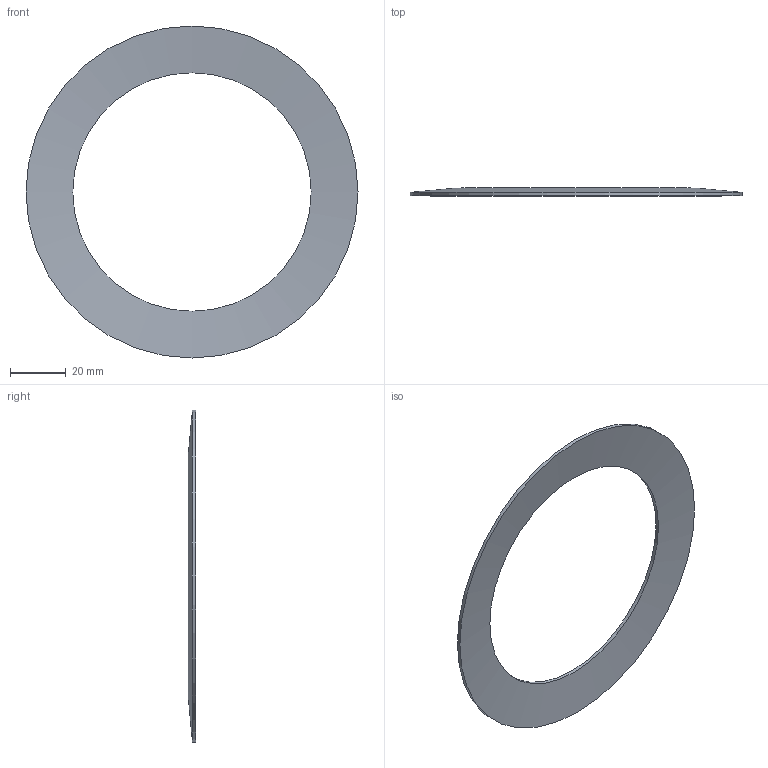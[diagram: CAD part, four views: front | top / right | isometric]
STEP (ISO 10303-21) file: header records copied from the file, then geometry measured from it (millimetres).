
FILE_DESCRIPTION(/* description */ ('393N'),/* implementation_level */ '2;1');
FILE_NAME(/* name */ 'ST.1190.0855.0125.step',/* time_stamp */ '2026-09-18T10:39:08+02:00',/* author */ ('impex-ready.pl'),/* organization */ ('ST.1190.0855.0125'),/* preprocessor_version */ 'ST-DEVELOPER v20.1',/* originating_system */ 'Autodesk Inventor 2026',/* authorisation */ 'Ugiecie 0,75 h0 = 1.16');
FILE_SCHEMA (('AUTOMOTIVE_DESIGN { 1 0 10303 214 3 1 1 }'));
Length unit declared in the file: millimetre
Products named in the file (1): ST.1190.0855.0125
Bounding box: 119 x 2.8 x 119 mm (x, y, z)
Volume: 6754.2 mm3; surface area: 11613.3 mm2
Topology: 1 solids, 1 shells, 4 faces, 8 edges, 4 vertices
Faces by surface type: cone 2, cylinder 2
Full cylindrical faces by diameter (mm): 85.5 x1, 119 x1
Entity records: 151 total; most frequent: DIRECTION 22, CARTESIAN_POINT 17, ORIENTED_EDGE 16, AXIS2_PLACEMENT_3D 9, EDGE_CURVE 8, FACE_OUTER_BOUND 4, EDGE_LOOP 4, LINE 4
